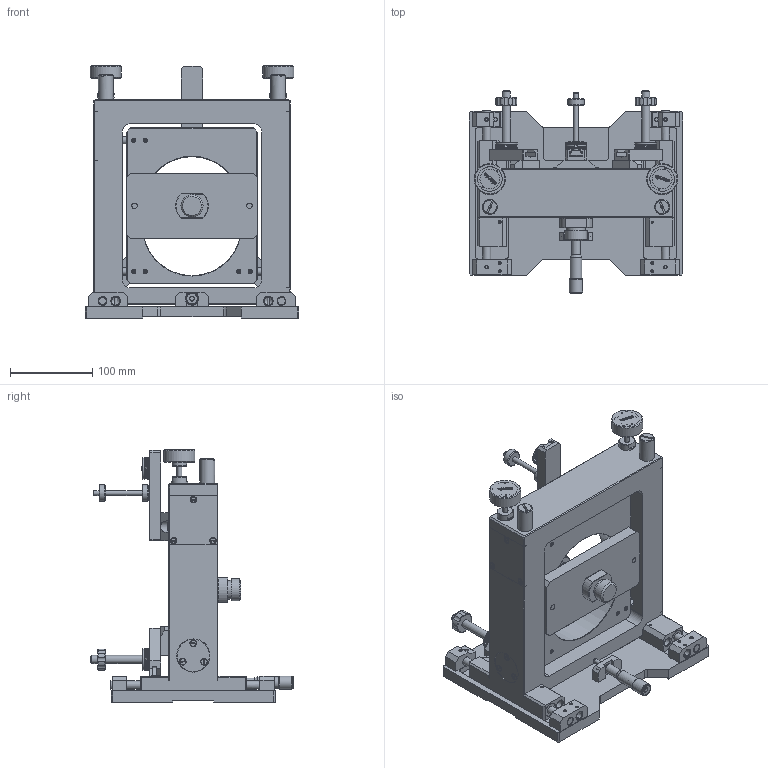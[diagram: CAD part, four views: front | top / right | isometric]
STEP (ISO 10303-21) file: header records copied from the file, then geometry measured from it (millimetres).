
FILE_DESCRIPTION(/* description */ (''),/* implementation_level */ '2;1');
FILE_NAME(/* name */ 'U:\KONSTRUKTORIAI\DOKUMENTACIJA\5\5TAM-250\STEP\5TAM-250 SB.stp',/* time_stamp */ '2020-11-06T07:31:56+02:00',/* author */ ('dsgn32'),/* organization */ (''),/* preprocessor_version */ 'ST-DEVELOPER v15.2',/* originating_system */ 'Autodesk Inventor 2014',/* authorisation */ '');
FILE_SCHEMA (('AUTOMOTIVE_DESIGN { 1 0 10303 214 3 1 1 }'));
Products named in the file (1): 5TAM-250 SB
Bounding box: 260 x 246.72 x 307.84 mm (x, y, z)
Volume: 2945845.6 mm3; surface area: 562675.9 mm2
Topology: 3 solids, 86 shells, 3529 faces, 7864 edges, 4682 vertices
Faces by surface type: plane 2435, cylinder 538, cone 349, bspline 144, torus 63
Full cylindrical faces by diameter (mm): 1.25 x1, 1.5 x5, 2.459 x4, 2.5 x3, 2.6 x4, 3 x10, 3.1 x6, 3.242 x9, 3.621 x6, 4 x10, 4.134 x20, 4.3 x12, 4.5 x9, 4.917 x15, 5 x13, 5.4 x2, 5.5 x10, 6 x32, 6.2 x1, 6.4 x13, 6.5 x6, 6.647 x2, 7 x3, 8 x8, 8.5 x12, 8.917 x1, 9 x6, 9.4 x1, 10 x40, 11 x12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
Entity records: 96271 total; most frequent: CARTESIAN_POINT 22970, DIRECTION 14823, ORIENTED_EDGE 13632, EDGE_CURVE 6816, AXIS2_PLACEMENT_3D 5639, EDGE_LOOP 4569, VERTEX_POINT 4315, LINE 3545
